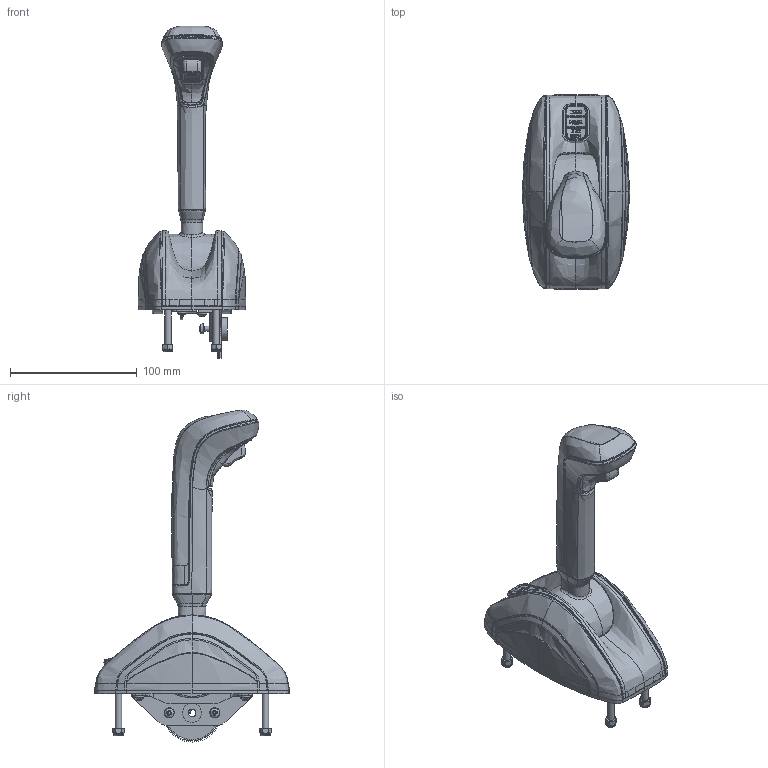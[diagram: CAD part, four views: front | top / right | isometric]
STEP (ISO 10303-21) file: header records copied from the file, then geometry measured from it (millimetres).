
FILE_DESCRIPTION(/* description */ (''),/* implementation_level */ '2;1');
FILE_NAME(/* name */ 'C:\Users\a.zappaterra\Desktop\Prodotti per Stand Virtuale\B505\B505 Stend Virtuale.stp',/* time_stamp */ '2021-02-04T16:05:04+01:00',/* author */ ('a.zappaterra'),/* organization */ (''),/* preprocessor_version */ 'ST-DEVELOPER v18',/* originating_system */ 'Autodesk Inventor 2020',/* authorisation */ '');
FILE_SCHEMA (('AUTOMOTIVE_DESIGN { 1 0 10303 214 3 1 1 }'));
Products named in the file (30): B505 svuotata; 11743; 23807; 34497; 37146; 36564; 34500; 37144; 31982; 33777; 33793 ; 33792; 35384; 34481; 35784; 34576; 34815; 35597; 35038; 35039; 35153; Leva Ultraflex Lavorata svuotata; 35599; 34417 ; 35973; 35640; 35492; 35556; 35133; ISO 4026 - M8 x 12
Assembly tree (50 placements, depth 3):
  B505 svuotata
    23807  x2
    11743  x6
    34497  x2
    37146
    36564
    34500  x4
    37144
    31982  x6
    33777  x2
    33793   x2
    33792
    35384  x2
    34481
    35784
    34576
    34815
    35597
    35038
    35039
    35153  x4
    Leva Ultraflex Lavorata svuotata
      35599
    34417 
    35973
    35640
    35492
    35556
    35133
    ISO 4026 - M8 x 12
Bounding box: 84.6 x 153.83 x 262.06 mm (x, y, z)
Volume: 369349.6 mm3; surface area: 208158.7 mm2
Topology: 50 solids, 50 shells, 3700 faces, 10128 edges, 6617 vertices
Faces by surface type: plane 1704, bspline 875, cylinder 554, cone 403, torus 138, sphere 26
Full cylindrical faces by diameter (mm): 0.75 x2, 1.5 x5, 2.2 x4, 2.459 x2, 2.5 x4, 2.6 x3, 2.9 x2, 3 x9, 3.05 x1, 3.242 x7, 3.5 x3, 3.65 x6, 4 x16, 4.134 x6, 4.5 x4, 4.509 x1, 4.567 x2, 5 x8, 5.1 x12, 5.2 x1, 5.387 x1, 5.5 x1, 6 x7, 6.2 x1, 7 x1, 8 x8, 8.052 x2, 9.3 x1, 10.1 x2, 11 x1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
Entity records: 360497 total; most frequent: CARTESIAN_POINT 294507, ORIENTED_EDGE 15020, DIRECTION 11035, EDGE_CURVE 7510, VERTEX_POINT 4925, LINE 3729, VECTOR 3729, AXIS2_PLACEMENT_3D 3653
